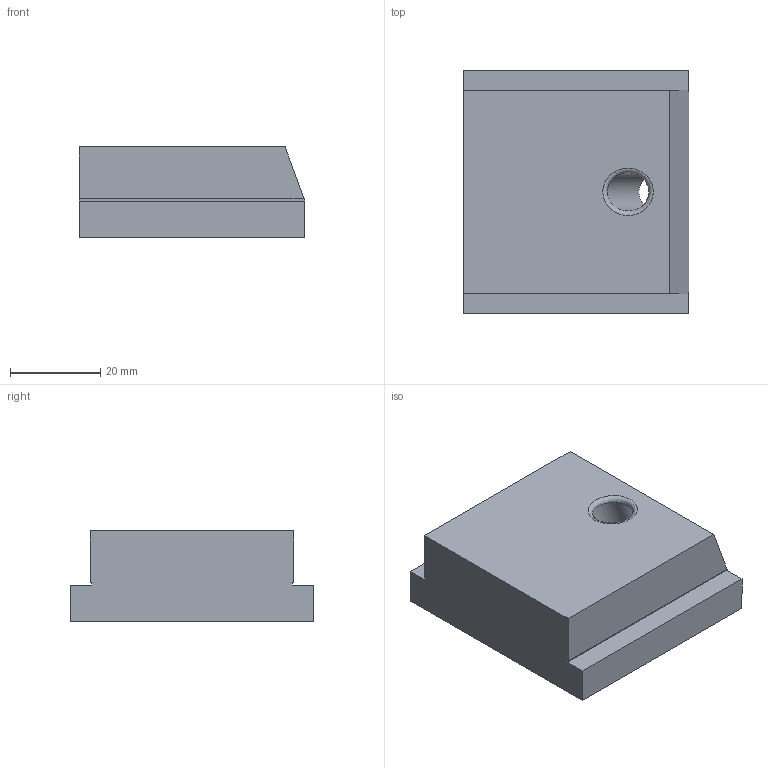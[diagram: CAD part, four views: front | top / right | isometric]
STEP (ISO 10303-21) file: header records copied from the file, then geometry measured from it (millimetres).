
FILE_DESCRIPTION (( 'STEP AP214' ), '1' );
FILE_NAME ('Schieber_-_H20 B45 L50.step', '2024-01-15T11:27:34', ( '' ), ( '' ), 'SwSTEP 2.0', 'SolidWorks 2020', '' );
FILE_SCHEMA (( 'AUTOMOTIVE_DESIGN' ));
Length unit declared in the file: millimetre
Products named in the file (1): Schieber_-_H20 B45 L50
Bounding box: 50 x 54 x 20 mm (x, y, z)
Volume: 46189.4 mm3; surface area: 9623.9 mm2
Topology: 1 solids, 1 shells, 208 faces, 555 edges, 369 vertices
Faces by surface type: plane 120, bspline 87, cylinder 1
Full cylindrical faces by diameter (mm): 8.5 x1
Entity records: 11065 total; most frequent: CARTESIAN_POINT 6448, ORIENTED_EDGE 1106, DIRECTION 622, EDGE_CURVE 553, VECTOR 378, LINE 378, VERTEX_POINT 369, EDGE_LOOP 232
